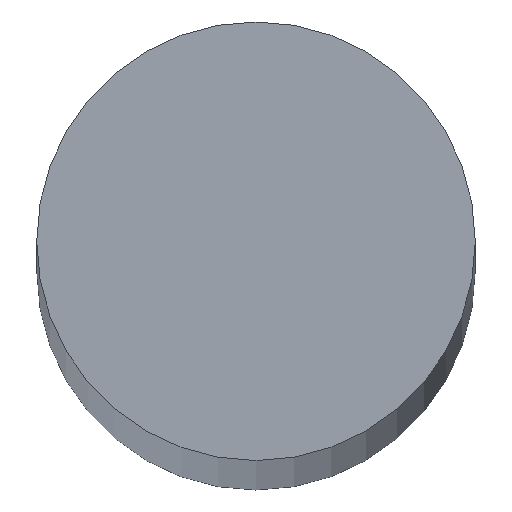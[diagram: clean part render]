
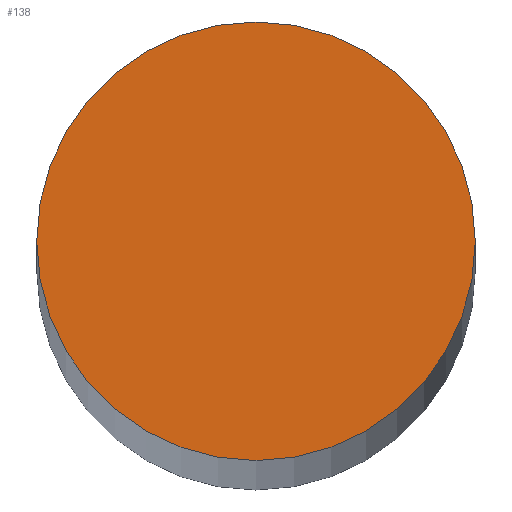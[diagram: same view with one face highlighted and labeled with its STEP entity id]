
A CAD part, top view. The second image highlights one B-rep face of the part: STEP entity #138.
In plain terms, the highlighted planar face has unit normal (0, 0, 1).
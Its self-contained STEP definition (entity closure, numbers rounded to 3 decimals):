
#9 = ORIENTED_EDGE ( 'NONE', *, *, #62, .T. ) ;
#10 = ORIENTED_EDGE ( 'NONE', *, *, #63, .T. ) ;
#20 = EDGE_LOOP ( 'NONE', ( #10, #9 ) ) ;
#29 = CIRCLE ( 'NONE', #70, 6. ) ;
#31 = CIRCLE ( 'NONE', #53, 6. ) ;
#36 = FACE_OUTER_BOUND ( 'NONE', #20, .T. ) ;
#49 = VERTEX_POINT ( 'NONE', #50 ) ;
#50 = CARTESIAN_POINT ( 'NONE',  ( 6., 0., 231. ) ) ;
#52 = VERTEX_POINT ( 'NONE', #78 ) ;
#53 = AXIS2_PLACEMENT_3D ( 'NONE', #95, #97, #98 ) ;
#56 = AXIS2_PLACEMENT_3D ( 'NONE', #108, #116, #117 ) ;
#62 = EDGE_CURVE ( 'NONE', #49, #52, #29, .T. ) ;
#63 = EDGE_CURVE ( 'NONE', #52, #49, #31, .T. ) ;
#70 = AXIS2_PLACEMENT_3D ( 'NONE', #90, #93, #94 ) ;
#78 = CARTESIAN_POINT ( 'NONE',  ( -6., 0., 231. ) ) ;
#90 = CARTESIAN_POINT ( 'NONE',  ( 0., 0., 231. ) ) ;
#93 = DIRECTION ( 'NONE',  ( 0., 0., 1. ) ) ;
#94 = DIRECTION ( 'NONE',  ( 1., 0., 0. ) ) ;
#95 = CARTESIAN_POINT ( 'NONE',  ( 0., 0., 231. ) ) ;
#97 = DIRECTION ( 'NONE',  ( 0., 0., 1. ) ) ;
#98 = DIRECTION ( 'NONE',  ( 1., 0., 0. ) ) ;
#103 = PLANE ( 'NONE',  #56 ) ;
#108 = CARTESIAN_POINT ( 'NONE',  ( 0., 0., 231. ) ) ;
#116 = DIRECTION ( 'NONE',  ( 0., 0., 1. ) ) ;
#117 = DIRECTION ( 'NONE',  ( 1., 0., 0. ) ) ;
#138 = ADVANCED_FACE ( 'NONE', ( #36 ), #103, .T. ) ;
